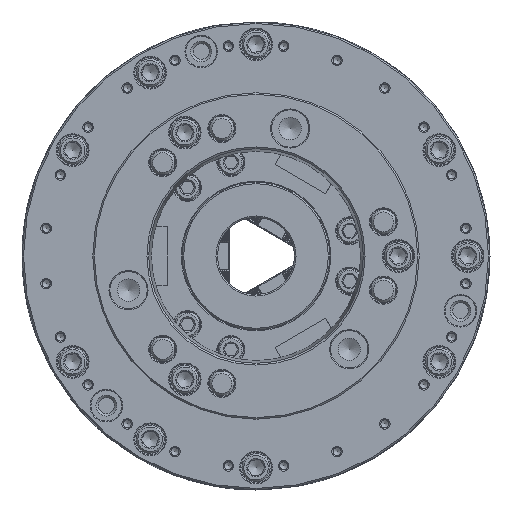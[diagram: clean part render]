
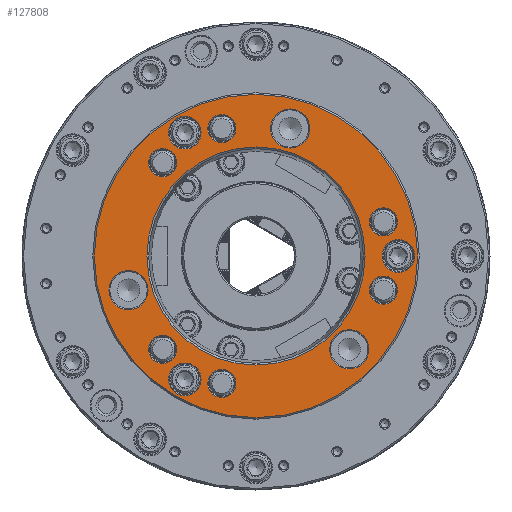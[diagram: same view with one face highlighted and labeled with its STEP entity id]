
A CAD part, left-side view. The second image highlights one B-rep face of the part: STEP entity #127808.
In plain terms, the highlighted planar face has unit normal (-1, 0, 0).
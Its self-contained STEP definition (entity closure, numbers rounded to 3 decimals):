
#173 = EDGE_LOOP ( 'NONE', ( #130314 ) ) ;
#1181 = EDGE_CURVE ( 'NONE', #89558, #89558, #108715, .T. ) ;
#3420 = ORIENTED_EDGE ( 'NONE', *, *, #1181, .T. ) ;
#3617 = FACE_BOUND ( 'NONE', #105269, .T. ) ;
#4151 = EDGE_CURVE ( 'NONE', #100621, #100621, #23485, .T. ) ;
#4283 = CARTESIAN_POINT ( 'NONE',  ( -125., -92.5, 10.6 ) ) ;
#4317 = FACE_BOUND ( 'NONE', #9948, .T. ) ;
#5075 = FACE_BOUND ( 'NONE', #76469, .T. ) ;
#5094 = EDGE_LOOP ( 'NONE', ( #3420 ) ) ;
#5957 = CIRCLE ( 'NONE', #90925, 9.1 ) ;
#6501 = PLANE ( 'NONE',  #61892 ) ;
#9047 = DIRECTION ( 'NONE',  ( 0., 0., 1. ) ) ;
#9948 = EDGE_LOOP ( 'NONE', ( #21132 ) ) ;
#10261 = AXIS2_PLACEMENT_3D ( 'NONE', #97819, #121443, #141413 ) ;
#10462 = VERTEX_POINT ( 'NONE', #44397 ) ;
#10942 = ORIENTED_EDGE ( 'NONE', *, *, #128678, .F. ) ;
#11193 = CIRCLE ( 'NONE', #65476, 105. ) ;
#13013 = EDGE_LOOP ( 'NONE', ( #103543 ) ) ;
#15408 = FACE_BOUND ( 'NONE', #73072, .T. ) ;
#16451 = CARTESIAN_POINT ( 'NONE',  ( -125., -82.804, -13.087 ) ) ;
#17551 = CARTESIAN_POINT ( 'NONE',  ( -125., 60.617, 69.717 ) ) ;
#18674 = AXIS2_PLACEMENT_3D ( 'NONE', #58795, #135626, #136337 ) ;
#19554 = CIRCLE ( 'NONE', #139719, 9.1 ) ;
#20432 = EDGE_LOOP ( 'NONE', ( #71403 ) ) ;
#21132 = ORIENTED_EDGE ( 'NONE', *, *, #49555, .F. ) ;
#21619 = ORIENTED_EDGE ( 'NONE', *, *, #122547, .F. ) ;
#21921 = ORIENTED_EDGE ( 'NONE', *, *, #95199, .F. ) ;
#23485 = CIRCLE ( 'NONE', #136689, 10.6 ) ;
#23609 = EDGE_LOOP ( 'NONE', ( #35546 ) ) ;
#24778 = DIRECTION ( 'NONE',  ( -1., 0., 0. ) ) ;
#25856 = CARTESIAN_POINT ( 'NONE',  ( -125., -82.804, -22.187 ) ) ;
#27958 = DIRECTION ( 'NONE',  ( 0., 0., -1. ) ) ;
#28669 = DIRECTION ( 'NONE',  ( 0., 0., -1. ) ) ;
#29394 = FACE_BOUND ( 'NONE', #20432, .T. ) ;
#30097 = FACE_BOUND ( 'NONE', #13013, .T. ) ;
#30504 = DIRECTION ( 'NONE',  ( -1., 0., 0. ) ) ;
#31513 = AXIS2_PLACEMENT_3D ( 'NONE', #76000, #120305, #122500 ) ;
#31987 = CARTESIAN_POINT ( 'NONE',  ( -125., 46.25, -80.107 ) ) ;
#33045 = DIRECTION ( 'NONE',  ( -1., 0., 0. ) ) ;
#33652 = CARTESIAN_POINT ( 'NONE',  ( -125., 60.617, -60.617 ) ) ;
#34259 = EDGE_CURVE ( 'NONE', #94396, #94396, #60538, .T. ) ;
#35546 = ORIENTED_EDGE ( 'NONE', *, *, #34259, .F. ) ;
#36005 = AXIS2_PLACEMENT_3D ( 'NONE', #128426, #49394, #27958 ) ;
#37043 = ORIENTED_EDGE ( 'NONE', *, *, #76234, .F. ) ;
#38283 = FACE_BOUND ( 'NONE', #124560, .T. ) ;
#38356 = CIRCLE ( 'NONE', #120894, 9.1 ) ;
#38975 = EDGE_CURVE ( 'NONE', #70800, #70800, #102197, .T. ) ;
#39382 = ORIENTED_EDGE ( 'NONE', *, *, #119607, .F. ) ;
#40057 = VERTEX_POINT ( 'NONE', #16451 ) ;
#41192 = DIRECTION ( 'NONE',  ( -1., 0., 0. ) ) ;
#42959 = CARTESIAN_POINT ( 'NONE',  ( -125., -82.804, 31.287 ) ) ;
#44397 = CARTESIAN_POINT ( 'NONE',  ( -125., -60.617, -73.322 ) ) ;
#46918 = CARTESIAN_POINT ( 'NONE',  ( -125., 22.187, -82.804 ) ) ;
#48495 = VERTEX_POINT ( 'NONE', #93567 ) ;
#49394 = DIRECTION ( 'NONE',  ( 1., 0., 0. ) ) ;
#49555 = EDGE_CURVE ( 'NONE', #130518, #130518, #62233, .T. ) ;
#51407 = CARTESIAN_POINT ( 'NONE',  ( -125., -92.5, 0. ) ) ;
#51460 = DIRECTION ( 'NONE',  ( -1., 0., 0. ) ) ;
#51905 = CARTESIAN_POINT ( 'NONE',  ( -125., 0., 0. ) ) ;
#52401 = CIRCLE ( 'NONE', #36005, 12.705 ) ;
#53402 = AXIS2_PLACEMENT_3D ( 'NONE', #51407, #140771, #142227 ) ;
#54050 = DIRECTION ( 'NONE',  ( 0., 0., 1. ) ) ;
#54277 = VERTEX_POINT ( 'NONE', #99346 ) ;
#55787 = DIRECTION ( 'NONE',  ( 0., 0., 1. ) ) ;
#58795 = CARTESIAN_POINT ( 'NONE',  ( -125., 0., 0. ) ) ;
#60478 = FACE_BOUND ( 'NONE', #142519, .T. ) ;
#60538 = CIRCLE ( 'NONE', #53402, 10.6 ) ;
#61214 = CIRCLE ( 'NONE', #18674, 70.861 ) ;
#61892 = AXIS2_PLACEMENT_3D ( 'NONE', #141630, #128399, #28669 ) ;
#62233 = CIRCLE ( 'NONE', #31513, 9.1 ) ;
#63100 = EDGE_CURVE ( 'NONE', #40057, #40057, #5957, .T. ) ;
#64256 = CIRCLE ( 'NONE', #102008, 9.1 ) ;
#65476 = AXIS2_PLACEMENT_3D ( 'NONE', #51905, #86624, #54050 ) ;
#67982 = CIRCLE ( 'NONE', #141108, 10.6 ) ;
#69389 = FACE_BOUND ( 'NONE', #5094, .T. ) ;
#70571 = DIRECTION ( 'NONE',  ( -1., 0., 0. ) ) ;
#70800 = VERTEX_POINT ( 'NONE', #115804 ) ;
#71403 = ORIENTED_EDGE ( 'NONE', *, *, #63100, .F. ) ;
#73072 = EDGE_LOOP ( 'NONE', ( #21921 ) ) ;
#74269 = EDGE_CURVE ( 'NONE', #10462, #10462, #52401, .T. ) ;
#74588 = VERTEX_POINT ( 'NONE', #96753 ) ;
#75310 = EDGE_LOOP ( 'NONE', ( #39382 ) ) ;
#76000 = CARTESIAN_POINT ( 'NONE',  ( -125., 60.617, 60.617 ) ) ;
#76045 = EDGE_CURVE ( 'NONE', #77689, #77689, #64256, .T. ) ;
#76234 = EDGE_CURVE ( 'NONE', #122724, #122724, #19554, .T. ) ;
#76469 = EDGE_LOOP ( 'NONE', ( #10942 ) ) ;
#77689 = VERTEX_POINT ( 'NONE', #42959 ) ;
#80687 = CARTESIAN_POINT ( 'NONE',  ( -125., -22.187, 70.099 ) ) ;
#82088 = EDGE_LOOP ( 'NONE', ( #85717 ) ) ;
#83391 = FACE_BOUND ( 'NONE', #118731, .T. ) ;
#84819 = DIRECTION ( 'NONE',  ( 0., 0., 1. ) ) ;
#85717 = ORIENTED_EDGE ( 'NONE', *, *, #74269, .T. ) ;
#86624 = DIRECTION ( 'NONE',  ( -1., 0., 0. ) ) ;
#89558 = VERTEX_POINT ( 'NONE', #80687 ) ;
#89753 = VERTEX_POINT ( 'NONE', #102986 ) ;
#90925 = AXIS2_PLACEMENT_3D ( 'NONE', #25856, #127755, #116630 ) ;
#91010 = CARTESIAN_POINT ( 'NONE',  ( -125., 46.25, 90.707 ) ) ;
#93567 = CARTESIAN_POINT ( 'NONE',  ( -125., 0., 105. ) ) ;
#94396 = VERTEX_POINT ( 'NONE', #4283 ) ;
#95199 = EDGE_CURVE ( 'NONE', #74588, #74588, #103989, .T. ) ;
#96753 = CARTESIAN_POINT ( 'NONE',  ( -125., 60.617, -51.517 ) ) ;
#97244 = CARTESIAN_POINT ( 'NONE',  ( -125., -82.804, 22.187 ) ) ;
#97312 = FACE_OUTER_BOUND ( 'NONE', #173, .T. ) ;
#97819 = CARTESIAN_POINT ( 'NONE',  ( -125., 82.804, -22.187 ) ) ;
#99346 = CARTESIAN_POINT ( 'NONE',  ( -125., 0., 70.861 ) ) ;
#100239 = CARTESIAN_POINT ( 'NONE',  ( -125., 22.187, 82.804 ) ) ;
#100621 = VERTEX_POINT ( 'NONE', #91010 ) ;
#101289 = CARTESIAN_POINT ( 'NONE',  ( -125., 22.187, -73.704 ) ) ;
#101708 = DIRECTION ( 'NONE',  ( 0., 0., 1. ) ) ;
#102008 = AXIS2_PLACEMENT_3D ( 'NONE', #97244, #51460, #142280 ) ;
#102197 = CIRCLE ( 'NONE', #10261, 12.705 ) ;
#102610 = DIRECTION ( 'NONE',  ( 0., 0., -1. ) ) ;
#102986 = CARTESIAN_POINT ( 'NONE',  ( -125., 46.25, -69.507 ) ) ;
#103543 = ORIENTED_EDGE ( 'NONE', *, *, #4151, .F. ) ;
#103989 = CIRCLE ( 'NONE', #122839, 9.1 ) ;
#105269 = EDGE_LOOP ( 'NONE', ( #130907 ) ) ;
#105497 = FACE_BOUND ( 'NONE', #75310, .T. ) ;
#106433 = AXIS2_PLACEMENT_3D ( 'NONE', #113676, #145431, #102610 ) ;
#106943 = FACE_BOUND ( 'NONE', #23609, .T. ) ;
#108715 = CIRCLE ( 'NONE', #106433, 12.705 ) ;
#108929 = CARTESIAN_POINT ( 'NONE',  ( -125., 22.187, 91.904 ) ) ;
#109075 = CARTESIAN_POINT ( 'NONE',  ( -125., 46.25, 80.107 ) ) ;
#113647 = EDGE_CURVE ( 'NONE', #48495, #48495, #11193, .T. ) ;
#113676 = CARTESIAN_POINT ( 'NONE',  ( -125., -22.187, 82.804 ) ) ;
#114414 = FACE_BOUND ( 'NONE', #82088, .T. ) ;
#115804 = CARTESIAN_POINT ( 'NONE',  ( -125., 82.804, -34.892 ) ) ;
#116630 = DIRECTION ( 'NONE',  ( 0., 0., 1. ) ) ;
#118731 = EDGE_LOOP ( 'NONE', ( #129227 ) ) ;
#119607 = EDGE_CURVE ( 'NONE', #133315, #133315, #38356, .T. ) ;
#120305 = DIRECTION ( 'NONE',  ( -1., 0., 0. ) ) ;
#120894 = AXIS2_PLACEMENT_3D ( 'NONE', #100239, #33045, #101708 ) ;
#121443 = DIRECTION ( 'NONE',  ( 1., 0., 0. ) ) ;
#122500 = DIRECTION ( 'NONE',  ( 0., 0., 1. ) ) ;
#122547 = EDGE_CURVE ( 'NONE', #54277, #54277, #61214, .T. ) ;
#122724 = VERTEX_POINT ( 'NONE', #101289 ) ;
#122839 = AXIS2_PLACEMENT_3D ( 'NONE', #33652, #24778, #55787 ) ;
#124560 = EDGE_LOOP ( 'NONE', ( #21619 ) ) ;
#127755 = DIRECTION ( 'NONE',  ( -1., 0., 0. ) ) ;
#127808 = ADVANCED_FACE ( 'NONE', ( #69389, #114414, #3617, #15408, #60478, #105497, #5075, #30097, #29394, #83391, #106943, #38283, #97312, #4317 ), #6501, .F. ) ;
#128399 = DIRECTION ( 'NONE',  ( 1., 0., 0. ) ) ;
#128426 = CARTESIAN_POINT ( 'NONE',  ( -125., -60.617, -60.617 ) ) ;
#128678 = EDGE_CURVE ( 'NONE', #89753, #89753, #67982, .T. ) ;
#129227 = ORIENTED_EDGE ( 'NONE', *, *, #76045, .F. ) ;
#130314 = ORIENTED_EDGE ( 'NONE', *, *, #113647, .T. ) ;
#130518 = VERTEX_POINT ( 'NONE', #17551 ) ;
#130907 = ORIENTED_EDGE ( 'NONE', *, *, #38975, .T. ) ;
#133315 = VERTEX_POINT ( 'NONE', #108929 ) ;
#135626 = DIRECTION ( 'NONE',  ( -1., 0., 0. ) ) ;
#136337 = DIRECTION ( 'NONE',  ( 0., 0., 1. ) ) ;
#136689 = AXIS2_PLACEMENT_3D ( 'NONE', #109075, #41192, #84819 ) ;
#137052 = DIRECTION ( 'NONE',  ( 0., 0., 1. ) ) ;
#139719 = AXIS2_PLACEMENT_3D ( 'NONE', #46918, #70571, #137052 ) ;
#140771 = DIRECTION ( 'NONE',  ( -1., 0., 0. ) ) ;
#141108 = AXIS2_PLACEMENT_3D ( 'NONE', #31987, #30504, #9047 ) ;
#141413 = DIRECTION ( 'NONE',  ( 0., 0., -1. ) ) ;
#141630 = CARTESIAN_POINT ( 'NONE',  ( -125., 105., 0. ) ) ;
#142227 = DIRECTION ( 'NONE',  ( 0., 0., 1. ) ) ;
#142280 = DIRECTION ( 'NONE',  ( 0., 0., 1. ) ) ;
#142519 = EDGE_LOOP ( 'NONE', ( #37043 ) ) ;
#145431 = DIRECTION ( 'NONE',  ( 1., 0., 0. ) ) ;
